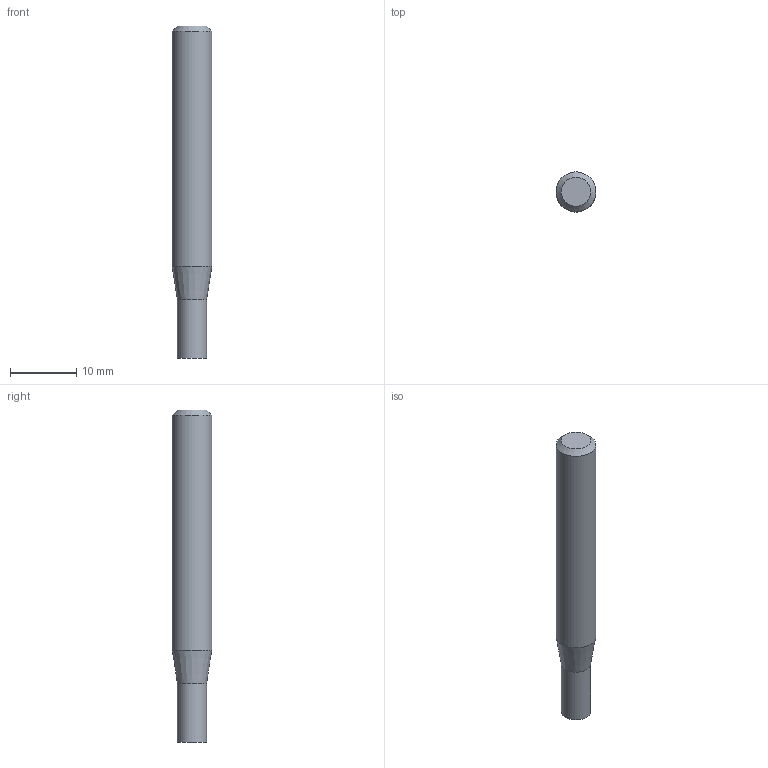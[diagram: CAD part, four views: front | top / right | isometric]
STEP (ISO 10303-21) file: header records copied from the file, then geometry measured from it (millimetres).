
FILE_DESCRIPTION((''),'2;1');
FILE_NAME('C:\Users\nsx150\AppData\Local\Temp\Mastercam 2021\98T1Q6BTT1\TEMP.step','2021-10-21T14:48:37',(''),(''),'STEP Write','Mastercam 2021 ... CNC Software, Inc.','');
FILE_SCHEMA(('AUTOMOTIVE_DESIGN'));
Length unit declared in the file: millimetre
Products named in the file (1): None
Bounding box: 6 x 6 x 50 mm (x, y, z)
Volume: 1258.5 mm3; surface area: 950.8 mm2
Topology: 2 solids, 2 shells, 8 faces, 10 edges, 6 vertices
Faces by surface type: plane 4, cylinder 2, cone 2
Full cylindrical faces by diameter (mm): 4.4 x1, 6 x1
Entity records: 190 total; most frequent: DIRECTION 32, CARTESIAN_POINT 22, AXIS2_PLACEMENT_3D 16, ORIENTED_EDGE 12, EDGE_LOOP 12, STYLED_ITEM 11, ADVANCED_FACE 8, VERTEX_POINT 6
